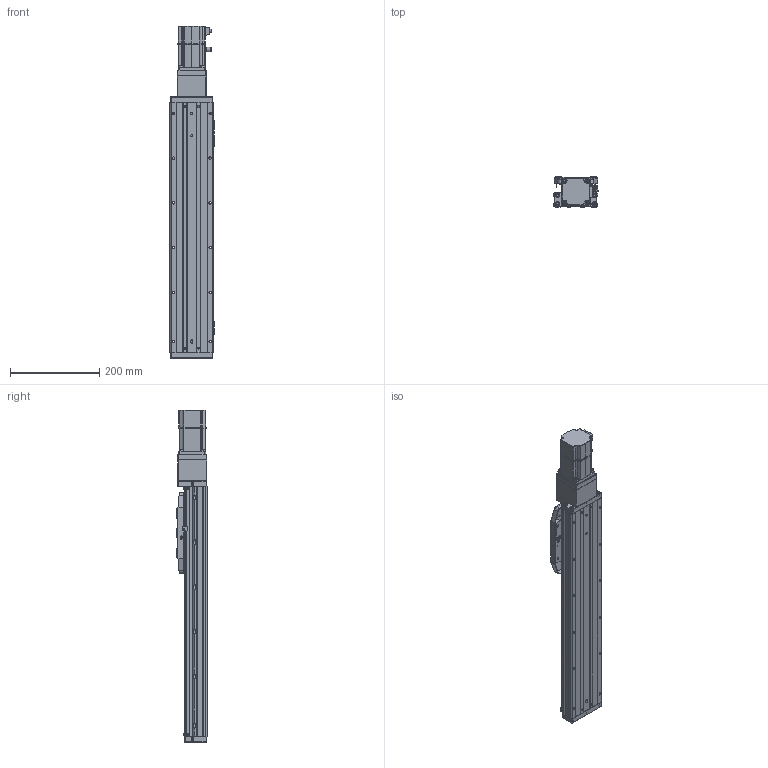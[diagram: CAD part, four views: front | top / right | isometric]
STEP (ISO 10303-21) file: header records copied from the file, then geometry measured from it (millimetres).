
FILE_DESCRIPTION (( 'STEP AP203' ), '1' );
FILE_NAME ('CTHA100-350-BC-M20-C4L.step', '2022-07-06T08:52:19', ( '微软用户' ), ( '微软中国' ), 'SwSTEP 2.0', 'SolidWorks 2020', '' );
FILE_SCHEMA (( 'CONFIG_CONTROL_DESIGN' ));
Length unit declared in the file: millimetre
Products named in the file (20): CTHA60-021; CTHA86-027; KTHA100-001_560; GBT77-2000 M3×3; CTHA86-006-1_CTHA86-006-2; KTHA100-004; GBT 70.1-M3℅6; GBT 70.3-M3℅6; KTHA100-005; GBT70.1 M5℅16; CTHA100-002; GB¨uT 70.2-M3¡Á5_M3¡Á6; CTHA60-016; CTHA100-031; EE_SX911P_R; _X2_4E0983F1_X0_200W_1; CTHA86-030; CTHA60-017; CTHA86-013; CTHA100-350-BC-M20-C4L
Assembly tree (63 placements, depth 2):
  CTHA100-350-BC-M20-C4L
    KTHA100-001_560
    KTHA100-004
    KTHA100-005
    GB¨uT 70.2-M3¡Á5_M3¡Á6  x10
    EE_SX911P_R  x3
    CTHA60-017  x3
    CTHA60-021  x2
    GBT77-2000 M3×3  x6
    GBT 70.1-M3℅6  x6
    GBT70.1 M5℅16  x14
    CTHA60-016  x2
    _X2_4E0983F1_X0_200W_1
    CTHA86-013
    CTHA86-027
    CTHA86-006-1_CTHA86-006-2
    GBT 70.3-M3℅6  x6
    CTHA100-002
    CTHA100-031
    CTHA86-030  x2
Bounding box: 98.82 x 68 x 742.5 mm (x, y, z)
Volume: 2747739.5 mm3; surface area: 495538.7 mm2
Topology: 65 solids, 65 shells, 2599 faces, 6214 edges, 3832 vertices
Faces by surface type: plane 1351, cylinder 673, cone 370, torus 112, bspline 69, sphere 24
Entity records: 44350 total; most frequent: CARTESIAN_POINT 8338, DIRECTION 6931, ORIENTED_EDGE 6700, EDGE_CURVE 3350, AXIS2_PLACEMENT_3D 2361, VECTOR 2209, LINE 2209, VERTEX_POINT 2110
